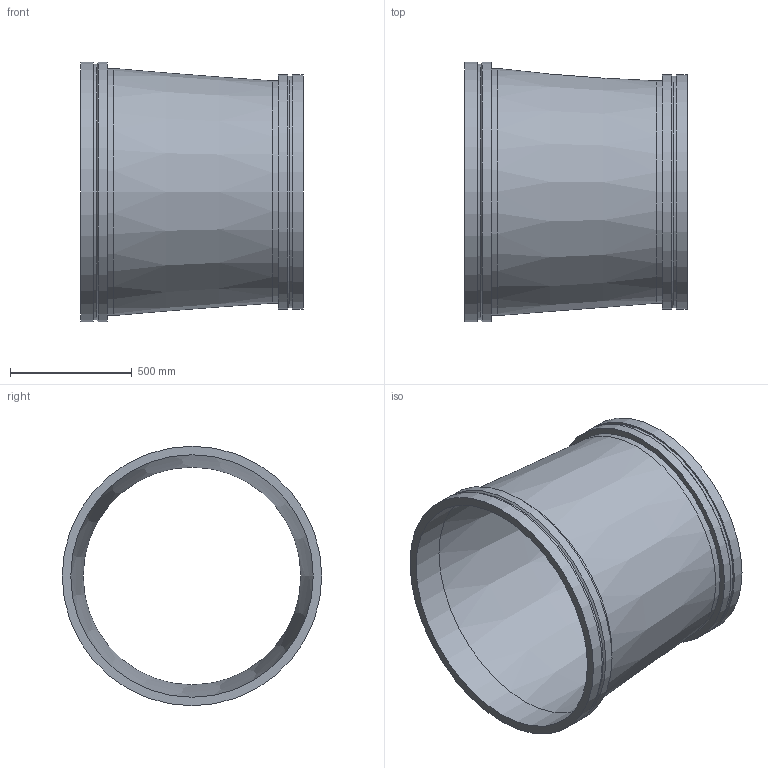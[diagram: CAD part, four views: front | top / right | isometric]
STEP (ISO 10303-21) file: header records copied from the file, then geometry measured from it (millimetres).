
FILE_DESCRIPTION(/* description */ ('VIC REDUCER CONCENTRIC No W50 VR','CAx-IF Rec.Pracs.---Representation and Presentation of Product Manufacturing Information (PMI)---4.0---2014-10-13'),/* implementation_level */ '2;1');
FILE_NAME(/* name */ 'C:\Users\kkamble\AppData\Roaming\Autodesk\ApplicationPlugins\Back Up\Victaulic_Vic-Ring_Reducer Concentric_No W50 VR (AGR)\Victaulic_Vic-Ring_Reducer Concentric_No W50 VR (AGR)_40.0x36.0 (1000x900).stp',/* time_stamp */ '2020-09-10T11:47:26+05:00',/* author */ ('cps_temp'),/* organization */ ('Victaulic'),/* preprocessor_version */ 'ST-DEVELOPER v17.2',/* originating_system */ 'Autodesk Inventor 2019',/* authorisation */ '');
FILE_SCHEMA (('AP242_MANAGED_MODEL_BASED_3D_ENGINEERING_MIM_LF { 1 0 10303 442 1 1 4 }'));
Length unit declared in the file: inch
Products named in the file (1): W50 VR-40.0x36.0
Bounding box: 914.4 x 1066.8 x 1066.8 mm (x, y, z)
Volume: 41921486.3 mm3; surface area: 5980387.5 mm2
Topology: 1 solids, 1 shells, 20 faces, 54 edges, 40 vertices
Faces by surface type: cylinder 10, plane 6, cone 4
Full cylindrical faces by diameter (mm): 895.35 x1, 914.4 x1, 950.722 x1, 965.2 x2, 996.95 x1, 1016 x1, 1050.925 x1, 1066.8 x2
Entity records: 830 total; most frequent: DIRECTION 162, CARTESIAN_POINT 132, ORIENTED_EDGE 108, AXIS2_PLACEMENT_3D 74, EDGE_CURVE 54, CIRCLE 40, VERTEX_POINT 40, EDGE_LOOP 26
